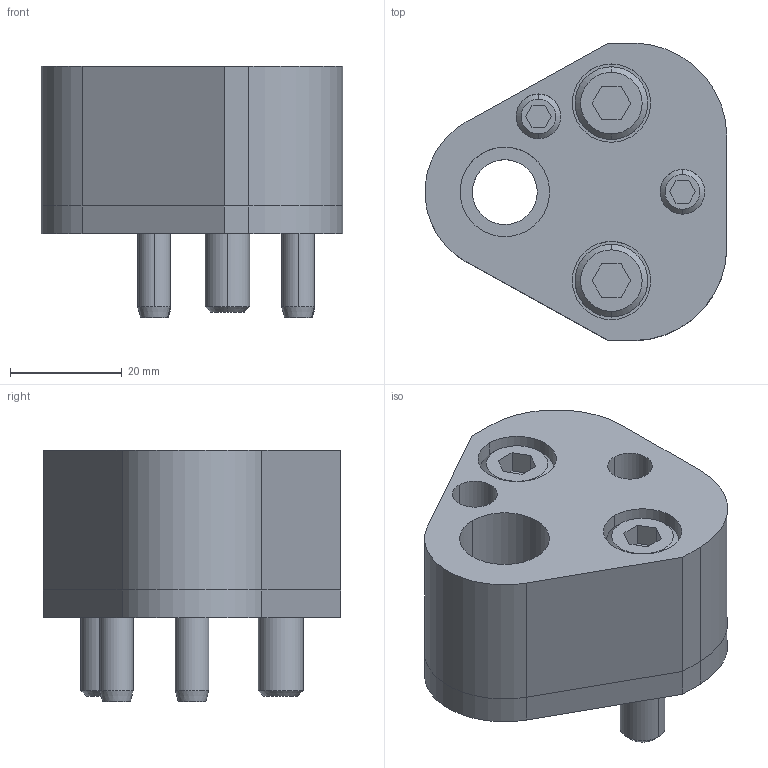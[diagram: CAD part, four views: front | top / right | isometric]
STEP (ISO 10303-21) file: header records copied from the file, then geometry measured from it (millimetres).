
FILE_DESCRIPTION(/* description */ (''),/* implementation_level */ '2;1');
FILE_NAME(/* name */ '3d_25crn-ad16_03124_r00.stp',/* time_stamp */ '2011-01-10T14:17:55+09:00',/* author */ ('MISUMI'),/* organization */ (''),/* preprocessor_version */ 'ST-DEVELOPER v11',/* originating_system */ 'UGS - NX 5.0',/* authorisation */ '');
FILE_SCHEMA (('CONFIG_CONTROL_DESIGN'));
Length unit declared in the file: millimetre
Products named in the file (1): 3d_25crn-ad16_03124_r00
Bounding box: 53.95 x 53.2 x 45 mm (x, y, z)
Volume: 57334.9 mm3; surface area: 22128.1 mm2
Topology: 8 solids, 8 shells, 155 faces, 348 edges, 224 vertices
Faces by surface type: plane 67, cylinder 62, cone 26
Entity records: 4494 total; most frequent: DIRECTION 804, CARTESIAN_POINT 782, ORIENTED_EDGE 696, EDGE_CURVE 348, AXIS2_PLACEMENT_3D 306, VERTEX_POINT 224, LINE 192, VECTOR 192
